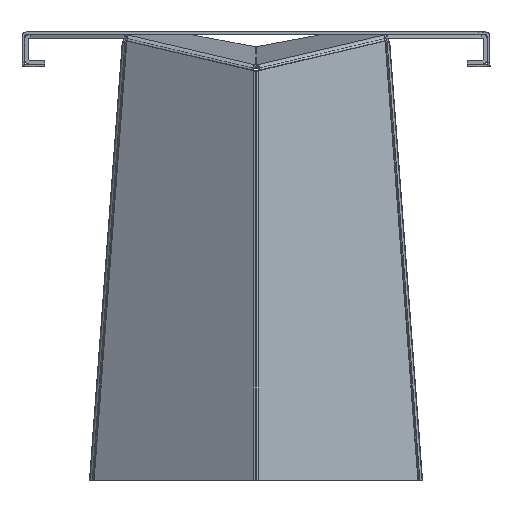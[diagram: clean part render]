
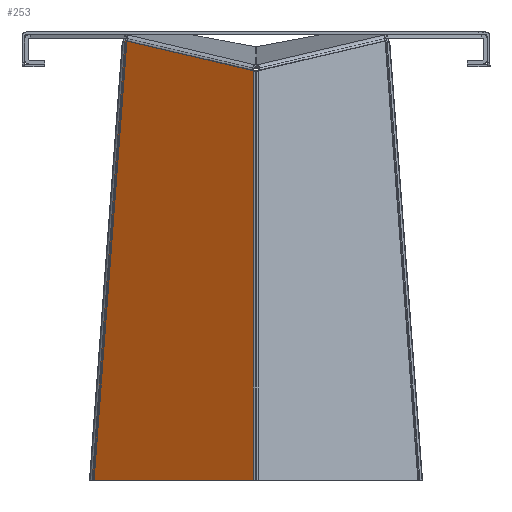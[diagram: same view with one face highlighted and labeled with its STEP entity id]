
A CAD part, left-side view. The second image highlights one B-rep face of the part: STEP entity #253.
In plain terms, the highlighted planar face has unit normal (-0.855, 0.519, 0).
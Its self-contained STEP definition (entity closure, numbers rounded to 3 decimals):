
#253=ADVANCED_FACE('',(#496),#3667,.T.);
#496=FACE_OUTER_BOUND('',#739,.T.);
#739=EDGE_LOOP('',(#1763,#1764,#1765,#1766));
#1763=ORIENTED_EDGE('',*,*,#2464,.T.);
#1764=ORIENTED_EDGE('',*,*,#2473,.T.);
#1765=ORIENTED_EDGE('',*,*,#2465,.T.);
#1766=ORIENTED_EDGE('',*,*,#2466,.F.);
#2464=EDGE_CURVE('',#3409,#3472,#3059,.T.);
#2465=EDGE_CURVE('',#3473,#3410,#3060,.T.);
#2466=EDGE_CURVE('',#3409,#3410,#3061,.T.);
#2473=EDGE_CURVE('',#3472,#3473,#3064,.T.);
#3059=B_SPLINE_CURVE_WITH_KNOTS('',1,(#7727,#7728),.UNSPECIFIED.,.F.,.F.,
(2,2),(0.,659.434),.UNSPECIFIED.);
#3060=B_SPLINE_CURVE_WITH_KNOTS('',1,(#7729,#7730),.UNSPECIFIED.,.F.,.F.,
(2,2),(0.,710.49),.UNSPECIFIED.);
#3061=B_SPLINE_CURVE_WITH_KNOTS('',1,(#7731,#7732),.UNSPECIFIED.,.F.,.F.,
(2,2),(-303.327,0.),.UNSPECIFIED.);
#3064=B_SPLINE_CURVE_WITH_KNOTS('',1,(#7753,#7754),.UNSPECIFIED.,.F.,.F.,
(2,2),(-246.199,0.),.UNSPECIFIED.);
#3409=VERTEX_POINT('',#7227);
#3410=VERTEX_POINT('',#7228);
#3472=VERTEX_POINT('',#7290);
#3473=VERTEX_POINT('',#7291);
#3667=PLANE('',#3953);
#3953=AXIS2_PLACEMENT_3D('',#6660,#4159,$);
#4159=DIRECTION('',(-0.855,0.519,0.));
#6660=CARTESIAN_POINT('',(298.46,666.911,-70.791));
#7227=CARTESIAN_POINT('',(125.317,381.671,0.));
#7228=CARTESIAN_POINT('',(282.712,640.967,0.));
#7290=CARTESIAN_POINT('',(125.317,381.671,659.434));
#7291=CARTESIAN_POINT('',(250.58,588.032,707.786));
#7727=CARTESIAN_POINT('',(125.317,381.671,0.));
#7728=CARTESIAN_POINT('',(125.317,381.671,659.434));
#7729=CARTESIAN_POINT('',(250.58,588.032,707.786));
#7730=CARTESIAN_POINT('',(282.712,640.967,0.));
#7731=CARTESIAN_POINT('',(125.317,381.671,0.));
#7732=CARTESIAN_POINT('',(282.712,640.967,0.));
#7753=CARTESIAN_POINT('',(125.317,381.671,659.434));
#7754=CARTESIAN_POINT('',(250.58,588.032,707.786));
